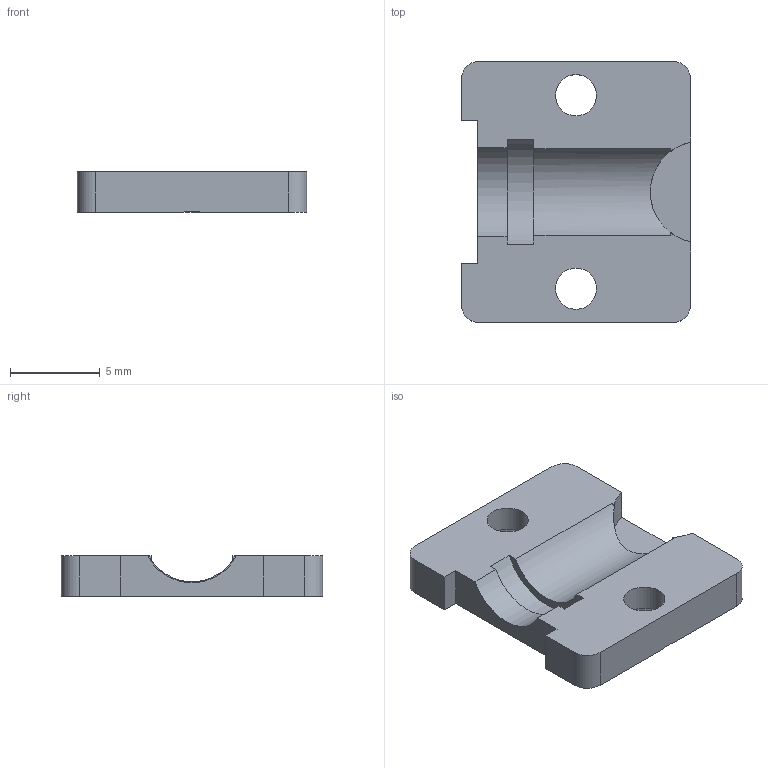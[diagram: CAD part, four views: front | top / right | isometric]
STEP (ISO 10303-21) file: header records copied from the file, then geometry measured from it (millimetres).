
FILE_DESCRIPTION(/* description */ (''),/* implementation_level */ '2;1');
FILE_NAME(/* name */ 'C27_R2_LED_Horizontal_Removable_Keeper.step',/* time_stamp */ '2026-09-10T17:49:21-07:00',/* author */ (''),/* organization */ (''),/* preprocessor_version */ 'ST-DEVELOPER v20.1',/* originating_system */ 'Autodesk Translation Framework v15.8.0.0',/* authorisation */ '');
FILE_SCHEMA (('AUTOMOTIVE_DESIGN { 1 0 10303 214 3 1 1 }'));
Length unit declared in the file: millimetre
Products named in the file (1): 2026-09-10-17-49-21-247
Bounding box: 12.8 x 14.6 x 2.25 mm (x, y, z)
Volume: 307.3 mm3; surface area: 502.5 mm2
Topology: 1 solids, 1 shells, 28 faces, 82 edges, 54 vertices
Faces by surface type: plane 16, cylinder 10, cone 2
Full cylindrical faces by diameter (mm): 2.3 x2
Entity records: 1103 total; most frequent: CARTESIAN_POINT 297, ORIENTED_EDGE 164, DIRECTION 163, EDGE_CURVE 82, AXIS2_PLACEMENT_3D 55, VERTEX_POINT 54, LINE 53, VECTOR 53
